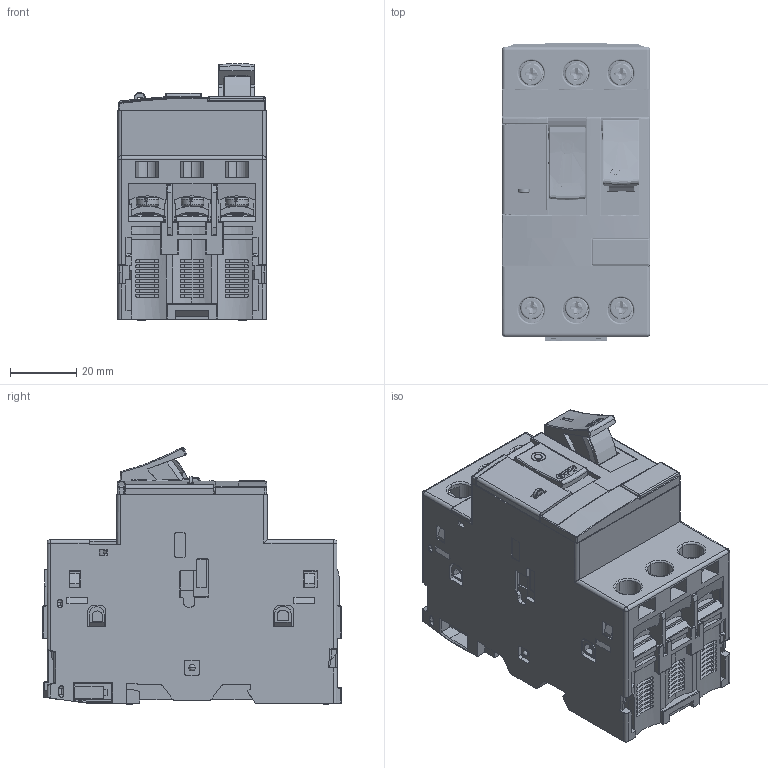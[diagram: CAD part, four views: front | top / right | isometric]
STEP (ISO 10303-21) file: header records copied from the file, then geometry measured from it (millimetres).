
FILE_DESCRIPTION (( 'STEP AP214' ), '1' );
FILE_NAME ('TGD1-32.STEP', '2025-12-19T10:51:18', ( '' ), ( '' ), 'SwSTEP 2.0', 'SolidWorks 2024', '' );
FILE_SCHEMA (( 'AUTOMOTIVE_DESIGN' ));
Length unit declared in the file: millimetre
Products named in the file (4): 6666666666_1.stp; 6666666666_2.stp; TGD1-32.stp; TGD1-32
Assembly tree (3 placements, depth 3):
  TGD1-32
    TGD1-32.stp
      6666666666_1.stp
      6666666666_2.stp
Bounding box: 44.7 x 90 x 77.41 mm (x, y, z)
Volume: 121071.2 mm3; surface area: 90296.7 mm2
Topology: 2 solids, 2 shells, 4821 faces, 14194 edges, 9170 vertices
Faces by surface type: plane 3401, cylinder 944, bspline 294, torus 113, sphere 50, cone 19
Entity records: 207854 total; most frequent: CARTESIAN_POINT 81651, ORIENTED_EDGE 28244, DIRECTION 23712, EDGE_CURVE 14122, LINE 10360, VECTOR 10360, VERTEX_POINT 9159, AXIS2_PLACEMENT_3D 6676
